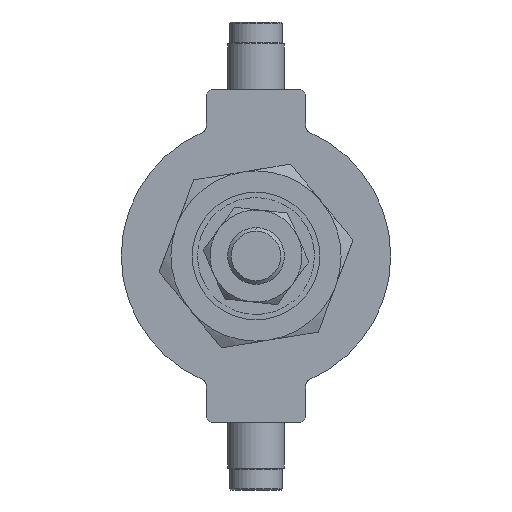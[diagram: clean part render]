
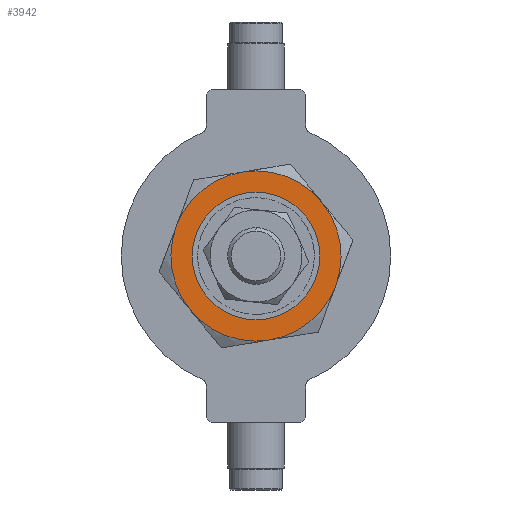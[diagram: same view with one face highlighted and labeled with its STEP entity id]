
A CAD part, left-side view. The second image highlights one B-rep face of the part: STEP entity #3942.
In plain terms, the highlighted planar face has unit normal (-1, 0, 0) as drawn and (0, 0, -1) by its records, which use the part's own axes.
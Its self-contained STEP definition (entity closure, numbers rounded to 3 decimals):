
#243 = VERTEX_POINT ( 'NONE', #772 ) ;
#248 = AXIS2_PLACEMENT_3D ( 'NONE', #4342, #2583, #4140 ) ;
#278 = ORIENTED_EDGE ( 'NONE', *, *, #3294, .F. ) ;
#473 = EDGE_CURVE ( 'NONE', #243, #2075, #1631, .T. ) ;
#502 = AXIS2_PLACEMENT_3D ( 'NONE', #4729, #4281, #1086 ) ;
#556 = AXIS2_PLACEMENT_3D ( 'NONE', #3170, #4535, #1153 ) ;
#566 = PLANE ( 'NONE',  #3295 ) ;
#642 = DIRECTION ( 'NONE',  ( 0., 0., 1. ) ) ;
#772 = CARTESIAN_POINT ( 'NONE',  ( -6., -10.392, -1.5 ) ) ;
#858 = DIRECTION ( 'NONE',  ( 0., 0., 1. ) ) ;
#968 = EDGE_LOOP ( 'NONE', ( #2957, #1737, #5135, #1308, #3327, #278 ) ) ;
#1055 = CARTESIAN_POINT ( 'NONE',  ( 0., 0., -1.5 ) ) ;
#1086 = DIRECTION ( 'NONE',  ( 1., 0., 0. ) ) ;
#1141 = CARTESIAN_POINT ( 'NONE',  ( -12., 0., -1.5 ) ) ;
#1153 = DIRECTION ( 'NONE',  ( 1., 0., 0. ) ) ;
#1207 = DIRECTION ( 'NONE',  ( 1., 0., 0. ) ) ;
#1210 = CARTESIAN_POINT ( 'NONE',  ( 8.25, 0., -1.5 ) ) ;
#1226 = AXIS2_PLACEMENT_3D ( 'NONE', #4868, #642, #1207 ) ;
#1308 = ORIENTED_EDGE ( 'NONE', *, *, #1532, .F. ) ;
#1316 = EDGE_CURVE ( 'NONE', #1581, #1465, #3629, .T. ) ;
#1387 = VERTEX_POINT ( 'NONE', #5326 ) ;
#1393 = EDGE_CURVE ( 'NONE', #1387, #2678, #2451, .T. ) ;
#1465 = VERTEX_POINT ( 'NONE', #3615 ) ;
#1532 = EDGE_CURVE ( 'NONE', #2678, #243, #4519, .T. ) ;
#1549 = CARTESIAN_POINT ( 'NONE',  ( 0., 0., -1.5 ) ) ;
#1581 = VERTEX_POINT ( 'NONE', #1210 ) ;
#1631 = CIRCLE ( 'NONE', #5160, 12. ) ;
#1737 = ORIENTED_EDGE ( 'NONE', *, *, #4848, .F. ) ;
#1879 = CIRCLE ( 'NONE', #2982, 12. ) ;
#2075 = VERTEX_POINT ( 'NONE', #3360 ) ;
#2162 = DIRECTION ( 'NONE',  ( 0., 0., 1. ) ) ;
#2215 = CARTESIAN_POINT ( 'NONE',  ( 0., 0., -1.5 ) ) ;
#2291 = CARTESIAN_POINT ( 'NONE',  ( 0., 0., -1.5 ) ) ;
#2354 = EDGE_LOOP ( 'NONE', ( #4207, #2547 ) ) ;
#2451 = CIRCLE ( 'NONE', #248, 12. ) ;
#2481 = FACE_BOUND ( 'NONE', #2354, .T. ) ;
#2547 = ORIENTED_EDGE ( 'NONE', *, *, #2750, .T. ) ;
#2567 = DIRECTION ( 'NONE',  ( 1., 0., 0. ) ) ;
#2583 = DIRECTION ( 'NONE',  ( 0., 0., 1. ) ) ;
#2586 = DIRECTION ( 'NONE',  ( 1., 0., 0. ) ) ;
#2587 = DIRECTION ( 'NONE',  ( 1., 0., 0. ) ) ;
#2642 = CIRCLE ( 'NONE', #4089, 12. ) ;
#2678 = VERTEX_POINT ( 'NONE', #1141 ) ;
#2750 = EDGE_CURVE ( 'NONE', #1465, #1581, #4284, .T. ) ;
#2784 = CARTESIAN_POINT ( 'NONE',  ( 0., 0., -1.5 ) ) ;
#2957 = ORIENTED_EDGE ( 'NONE', *, *, #4132, .F. ) ;
#2982 = AXIS2_PLACEMENT_3D ( 'NONE', #1055, #5068, #2587 ) ;
#3030 = AXIS2_PLACEMENT_3D ( 'NONE', #1549, #2162, #5206 ) ;
#3170 = CARTESIAN_POINT ( 'NONE',  ( 0., 0., -1.5 ) ) ;
#3294 = EDGE_CURVE ( 'NONE', #4164, #1387, #2642, .T. ) ;
#3295 = AXIS2_PLACEMENT_3D ( 'NONE', #2291, #4426, #2567 ) ;
#3327 = ORIENTED_EDGE ( 'NONE', *, *, #1393, .F. ) ;
#3360 = CARTESIAN_POINT ( 'NONE',  ( 6., -10.392, -1.5 ) ) ;
#3615 = CARTESIAN_POINT ( 'NONE',  ( -8.25, 0., -1.5 ) ) ;
#3629 = CIRCLE ( 'NONE', #3030, 8.25 ) ;
#3942 = ADVANCED_FACE ( 'NONE', ( #2481, #4690 ), #566, .F. ) ;
#4089 = AXIS2_PLACEMENT_3D ( 'NONE', #2784, #4514, #2586 ) ;
#4132 = EDGE_CURVE ( 'NONE', #5230, #4164, #1879, .T. ) ;
#4140 = DIRECTION ( 'NONE',  ( 1., 0., 0. ) ) ;
#4164 = VERTEX_POINT ( 'NONE', #5617 ) ;
#4207 = ORIENTED_EDGE ( 'NONE', *, *, #1316, .T. ) ;
#4281 = DIRECTION ( 'NONE',  ( 0., 0., 1. ) ) ;
#4284 = CIRCLE ( 'NONE', #556, 8.25 ) ;
#4342 = CARTESIAN_POINT ( 'NONE',  ( 0., 0., -1.5 ) ) ;
#4426 = DIRECTION ( 'NONE',  ( 0., 0., 1. ) ) ;
#4514 = DIRECTION ( 'NONE',  ( 0., 0., 1. ) ) ;
#4519 = CIRCLE ( 'NONE', #1226, 12. ) ;
#4535 = DIRECTION ( 'NONE',  ( 0., 0., 1. ) ) ;
#4671 = CIRCLE ( 'NONE', #502, 12. ) ;
#4690 = FACE_OUTER_BOUND ( 'NONE', #968, .T. ) ;
#4729 = CARTESIAN_POINT ( 'NONE',  ( 0., 0., -1.5 ) ) ;
#4848 = EDGE_CURVE ( 'NONE', #2075, #5230, #4671, .T. ) ;
#4868 = CARTESIAN_POINT ( 'NONE',  ( 0., 0., -1.5 ) ) ;
#5068 = DIRECTION ( 'NONE',  ( 0., 0., 1. ) ) ;
#5135 = ORIENTED_EDGE ( 'NONE', *, *, #473, .F. ) ;
#5160 = AXIS2_PLACEMENT_3D ( 'NONE', #2215, #858, #5610 ) ;
#5206 = DIRECTION ( 'NONE',  ( 1., 0., 0. ) ) ;
#5230 = VERTEX_POINT ( 'NONE', #5235 ) ;
#5235 = CARTESIAN_POINT ( 'NONE',  ( 12., 0., -1.5 ) ) ;
#5326 = CARTESIAN_POINT ( 'NONE',  ( -6., 10.392, -1.5 ) ) ;
#5610 = DIRECTION ( 'NONE',  ( 1., 0., 0. ) ) ;
#5617 = CARTESIAN_POINT ( 'NONE',  ( 6., 10.392, -1.5 ) ) ;
